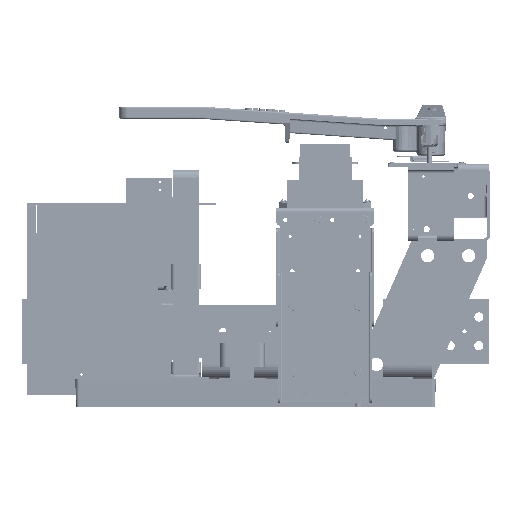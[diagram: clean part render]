
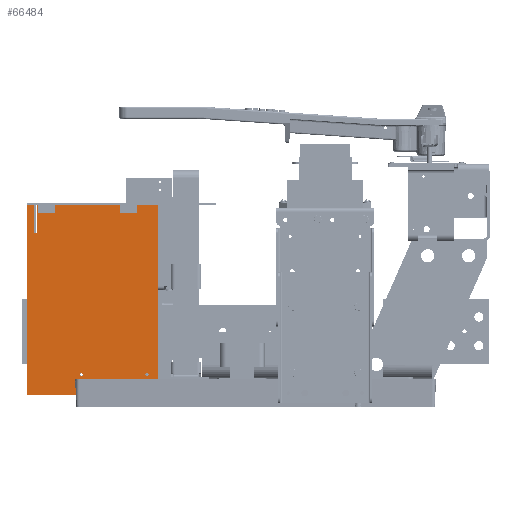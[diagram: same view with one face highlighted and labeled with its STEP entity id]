
A CAD part, left-side view. The second image highlights one B-rep face of the part: STEP entity #66484.
In plain terms, the highlighted planar face has unit normal (-1, 0, 0) as drawn and (0, 0, -1) by its records, which use the part's own axes.
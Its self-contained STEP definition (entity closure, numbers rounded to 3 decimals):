
#3290=FACE_BOUND('',#14033,.T.);
#3291=FACE_BOUND('',#14034,.T.);
#3292=FACE_BOUND('',#14035,.T.);
#3293=FACE_BOUND('',#14036,.T.);
#5330=CIRCLE('',#73118,0.097);
#5332=CIRCLE('',#73121,0.097);
#5334=CIRCLE('',#73124,0.097);
#5336=CIRCLE('',#73127,0.097);
#9801=FACE_OUTER_BOUND('',#14032,.T.);
#14032=EDGE_LOOP('',(#54450,#54451,#54452,#54453,#54454,#54455,#54456,#54457,
#54458,#54459,#54460,#54461));
#14033=EDGE_LOOP('',(#54462));
#14034=EDGE_LOOP('',(#54463));
#14035=EDGE_LOOP('',(#54464));
#14036=EDGE_LOOP('',(#54465));
#19346=LINE('',#112782,#25088);
#19350=LINE('',#112790,#25092);
#19353=LINE('',#112796,#25095);
#19356=LINE('',#112802,#25098);
#19359=LINE('',#112808,#25101);
#19362=LINE('',#112814,#25104);
#19365=LINE('',#112820,#25107);
#19368=LINE('',#112826,#25110);
#19371=LINE('',#112832,#25113);
#19374=LINE('',#112838,#25116);
#19377=LINE('',#112844,#25119);
#19380=LINE('',#112849,#25122);
#25088=VECTOR('',#87059,0.394);
#25092=VECTOR('',#87065,0.394);
#25095=VECTOR('',#87070,0.394);
#25098=VECTOR('',#87075,0.394);
#25101=VECTOR('',#87080,0.394);
#25104=VECTOR('',#87085,0.394);
#25107=VECTOR('',#87090,0.394);
#25110=VECTOR('',#87095,0.394);
#25113=VECTOR('',#87100,0.394);
#25116=VECTOR('',#87105,0.394);
#25119=VECTOR('',#87110,0.394);
#25122=VECTOR('',#87115,0.394);
#31105=VERTEX_POINT('',#112756);
#31107=VERTEX_POINT('',#112762);
#31109=VERTEX_POINT('',#112768);
#31111=VERTEX_POINT('',#112774);
#31113=VERTEX_POINT('',#112780);
#31114=VERTEX_POINT('',#112781);
#31117=VERTEX_POINT('',#112789);
#31119=VERTEX_POINT('',#112795);
#31121=VERTEX_POINT('',#112801);
#31123=VERTEX_POINT('',#112807);
#31125=VERTEX_POINT('',#112813);
#31127=VERTEX_POINT('',#112819);
#31129=VERTEX_POINT('',#112825);
#31131=VERTEX_POINT('',#112831);
#31133=VERTEX_POINT('',#112837);
#31135=VERTEX_POINT('',#112843);
#39220=EDGE_CURVE('',#31105,#31105,#5330,.T.);
#39223=EDGE_CURVE('',#31107,#31107,#5332,.T.);
#39226=EDGE_CURVE('',#31109,#31109,#5334,.T.);
#39229=EDGE_CURVE('',#31111,#31111,#5336,.T.);
#39232=EDGE_CURVE('',#31113,#31114,#19346,.T.);
#39236=EDGE_CURVE('',#31117,#31113,#19350,.T.);
#39239=EDGE_CURVE('',#31119,#31117,#19353,.T.);
#39242=EDGE_CURVE('',#31121,#31119,#19356,.T.);
#39245=EDGE_CURVE('',#31123,#31121,#19359,.T.);
#39248=EDGE_CURVE('',#31125,#31123,#19362,.T.);
#39251=EDGE_CURVE('',#31127,#31125,#19365,.T.);
#39254=EDGE_CURVE('',#31129,#31127,#19368,.T.);
#39257=EDGE_CURVE('',#31131,#31129,#19371,.T.);
#39260=EDGE_CURVE('',#31133,#31131,#19374,.T.);
#39263=EDGE_CURVE('',#31135,#31133,#19377,.T.);
#39266=EDGE_CURVE('',#31114,#31135,#19380,.T.);
#54450=ORIENTED_EDGE('',*,*,#39266,.F.);
#54451=ORIENTED_EDGE('',*,*,#39232,.F.);
#54452=ORIENTED_EDGE('',*,*,#39236,.F.);
#54453=ORIENTED_EDGE('',*,*,#39239,.F.);
#54454=ORIENTED_EDGE('',*,*,#39242,.F.);
#54455=ORIENTED_EDGE('',*,*,#39245,.F.);
#54456=ORIENTED_EDGE('',*,*,#39248,.F.);
#54457=ORIENTED_EDGE('',*,*,#39251,.F.);
#54458=ORIENTED_EDGE('',*,*,#39254,.F.);
#54459=ORIENTED_EDGE('',*,*,#39257,.F.);
#54460=ORIENTED_EDGE('',*,*,#39260,.F.);
#54461=ORIENTED_EDGE('',*,*,#39263,.F.);
#54462=ORIENTED_EDGE('',*,*,#39220,.T.);
#54463=ORIENTED_EDGE('',*,*,#39223,.T.);
#54464=ORIENTED_EDGE('',*,*,#39226,.T.);
#54465=ORIENTED_EDGE('',*,*,#39229,.T.);
#63483=PLANE('',#73142);
#66484=ADVANCED_FACE('',(#9801,#3290,#3291,#3292,#3293),#63483,.F.);
#73118=AXIS2_PLACEMENT_3D('',#112757,#87031,#87032);
#73121=AXIS2_PLACEMENT_3D('',#112763,#87038,#87039);
#73124=AXIS2_PLACEMENT_3D('',#112769,#87045,#87046);
#73127=AXIS2_PLACEMENT_3D('',#112775,#87052,#87053);
#73142=AXIS2_PLACEMENT_3D('',#112852,#87119,#87120);
#87031=DIRECTION('center_axis',(0.,0.,1.));
#87032=DIRECTION('ref_axis',(-1.,0.,0.));
#87038=DIRECTION('center_axis',(0.,0.,1.));
#87039=DIRECTION('ref_axis',(-1.,0.,0.));
#87045=DIRECTION('center_axis',(0.,0.,1.));
#87046=DIRECTION('ref_axis',(-1.,0.,0.));
#87052=DIRECTION('center_axis',(0.,0.,1.));
#87053=DIRECTION('ref_axis',(-1.,0.,0.));
#87059=DIRECTION('',(1.,0.,0.));
#87065=DIRECTION('',(0.,1.,0.));
#87070=DIRECTION('',(1.,0.,0.));
#87075=DIRECTION('',(0.,-1.,0.));
#87080=DIRECTION('',(-1.,0.,0.));
#87085=DIRECTION('',(0.,-1.,0.));
#87090=DIRECTION('',(1.,0.,0.));
#87095=DIRECTION('',(0.,-1.,0.));
#87100=DIRECTION('',(-1.,0.,0.));
#87105=DIRECTION('',(0.,1.,0.));
#87110=DIRECTION('',(1.,0.,0.));
#87115=DIRECTION('',(0.,-1.,0.));
#87119=DIRECTION('center_axis',(0.,0.,1.));
#87120=DIRECTION('ref_axis',(1.,0.,0.));
#112756=CARTESIAN_POINT('',(0.347,2.,0.));
#112757=CARTESIAN_POINT('Origin',(0.25,2.,0.));
#112762=CARTESIAN_POINT('',(0.347,7.,0.));
#112763=CARTESIAN_POINT('Origin',(0.25,7.,0.));
#112768=CARTESIAN_POINT('',(10.472,0.688,0.));
#112769=CARTESIAN_POINT('Origin',(10.375,0.688,0.));
#112774=CARTESIAN_POINT('',(10.472,4.688,0.));
#112775=CARTESIAN_POINT('Origin',(10.375,4.688,0.));
#112780=CARTESIAN_POINT('',(10.625,5.094,0.));
#112781=CARTESIAN_POINT('',(11.156,5.094,0.));
#112782=CARTESIAN_POINT('',(10.625,5.094,0.));
#112789=CARTESIAN_POINT('',(10.625,0.,0.));
#112790=CARTESIAN_POINT('',(10.625,0.,0.));
#112795=CARTESIAN_POINT('',(0.,0.,0.));
#112796=CARTESIAN_POINT('',(0.,0.,0.));
#112801=CARTESIAN_POINT('',(0.,7.422,0.));
#112802=CARTESIAN_POINT('',(0.,7.422,0.));
#112807=CARTESIAN_POINT('',(1.75,7.422,0.));
#112808=CARTESIAN_POINT('',(1.75,7.422,0.));
#112813=CARTESIAN_POINT('',(1.75,7.578,0.));
#112814=CARTESIAN_POINT('',(1.75,7.578,0.));
#112819=CARTESIAN_POINT('',(0.,7.578,0.));
#112820=CARTESIAN_POINT('',(0.,7.578,0.));
#112825=CARTESIAN_POINT('',(0.,8.,0.));
#112826=CARTESIAN_POINT('',(0.,8.,0.));
#112831=CARTESIAN_POINT('',(11.625,8.,0.));
#112832=CARTESIAN_POINT('',(11.625,8.,0.));
#112837=CARTESIAN_POINT('',(11.625,4.719,0.));
#112838=CARTESIAN_POINT('',(11.625,4.719,0.));
#112843=CARTESIAN_POINT('',(11.156,4.719,0.));
#112844=CARTESIAN_POINT('',(11.156,4.719,0.));
#112849=CARTESIAN_POINT('',(11.156,5.094,0.));
#112852=CARTESIAN_POINT('Origin',(5.401,4.41,0.));
